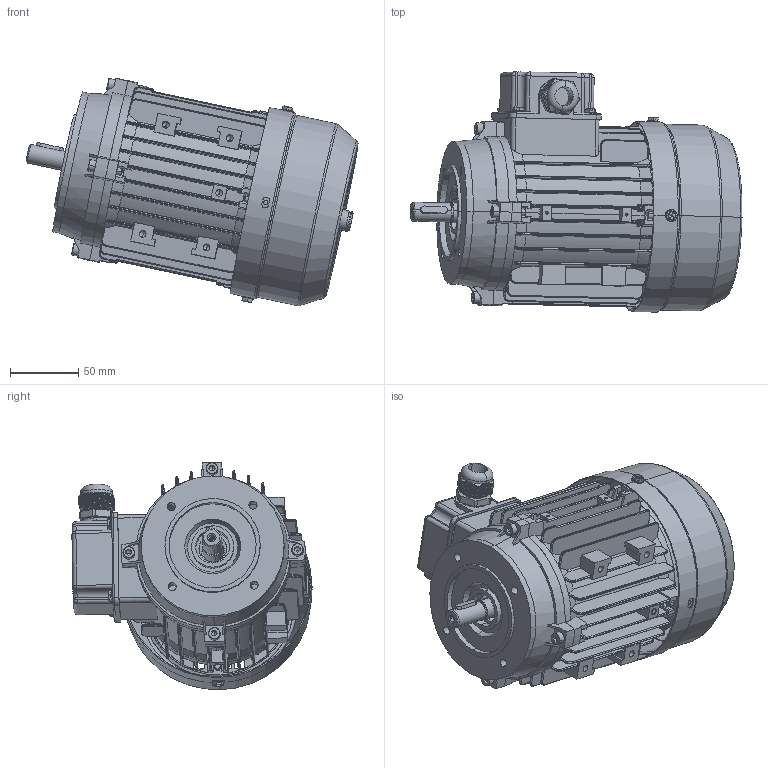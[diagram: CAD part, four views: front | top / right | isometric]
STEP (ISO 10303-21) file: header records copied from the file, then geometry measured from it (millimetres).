
FILE_DESCRIPTION (( 'STEP AP203' ), '1' );
FILE_NAME ('MSL71 assembly B14.STEP', '2017-11-26T09:37:39', ( 'user' ), ( 'china' ), 'SwSTEP 2.0', 'SolidWorks 2016', '' );
FILE_SCHEMA (( 'CONFIG_CONTROL_DESIGN' ));
Length unit declared in the file: millimetre
Products named in the file (13): MSL63-71堤盄碟; M71傷裔B14; GB-T 29.2-1988 M4鞠褒坋趼湍菜_05; MSL71-儂褲-L114; MSL63-71堤盄碟蚾饜; M71瑞欶_69; GB-T 70.1-2000 M5_20; M20 cable gland; M71傷裔B3_Post; MSL71 assembly B14; GB-T 5780-2000 M5_020; M71-Shaft ; MS71 綴裔瑞欶郪磁
Assembly tree (24 placements, depth 3):
  MSL71 assembly B14
    MSL71-儂褲-L114
    M71-Shaft 
    MS71 綴裔瑞欶郪磁
      M71傷裔B3_Post
      M71瑞欶_69
      GB-T 29.2-1988 M4鞠褒坋趼湍菜_05  x3
    MSL63-71堤盄碟蚾饜
      MSL63-71堤盄碟
      GB-T 29.2-1988 M4鞠褒坋趼湍菜_05  x4
      M20 cable gland
    GB-T 70.1-2000 M5_20  x4
    GB-T 5780-2000 M5_020  x4
    M71傷裔B14
Bounding box: 243.88 x 176.39 x 167.16 mm (x, y, z)
Volume: 481970.4 mm3; surface area: 388064 mm2
Topology: 22 solids, 22 shells, 2911 faces, 7466 edges, 4638 vertices
Faces by surface type: plane 1393, cylinder 934, cone 218, bspline 218, torus 148
Entity records: 98690 total; most frequent: CARTESIAN_POINT 37007, ORIENTED_EDGE 13112, DIRECTION 11793, EDGE_CURVE 6556, VERTEX_POINT 4161, AXIS2_PLACEMENT_3D 4106, LINE 3581, VECTOR 3581
